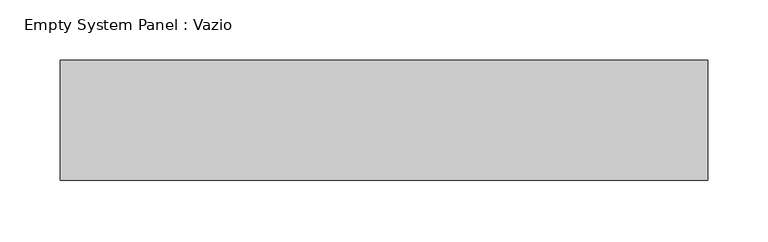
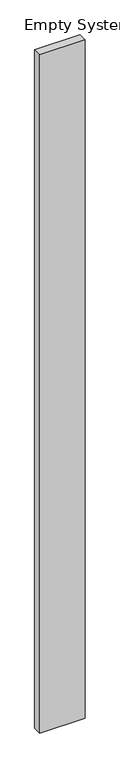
"""IFC4 building model written with IfcOpenShell, lengths in millimetres: plate geometry, Empty System Panel : Vazio."""

from ifc_helpers import new_model, si_unit, origin, origin_with_axes, place, context, project, spatial, polyline, outline, extrude, source, transform, mapped, element, save


def empty_system_panel_vazio_a15e6491(model_context):
    return source(origin(), model_context, "Body", "SweptSolid", [
        extrude(outline(polyline([(269.7260585, 50.0), (-269.7260585, 50.0), (-269.7260585, 150.0), (269.7260585, 150.0), (269.7260585, 50.0)])), origin_with_axes(), (0.0, 0.0, 1.0), 8494.3429448),
    ])


if __name__ == "__main__":
    model = new_model("IFC4")
    model_context = context("Model", 3, world=origin())
    ifc_project = project(units=[si_unit("LENGTHUNIT", "METRE", prefix="MILLI")], contexts=[model_context])
    site = spatial("IfcSite", under=ifc_project)
    building = spatial("IfcBuilding", under=site)
    placement = place(None, origin())
    empty_system_panel_vazio_shape = empty_system_panel_vazio_a15e6491(model_context)
    element("IfcPlate", 1, ObjectType="Empty System Panel : Vazio", at=placement, inside=building, context=model_context, shape_type="MappedRepresentation", body=[
        mapped(empty_system_panel_vazio_shape, transform((0.0, 0.0, 0.0), x_axis=(1.0, 0.0, 0.0), y_axis=(0.0, 1.0, 0.0), z_axis=(0.0, 0.0, 1.0))),
    ])
    save(model, "model.ifc")
